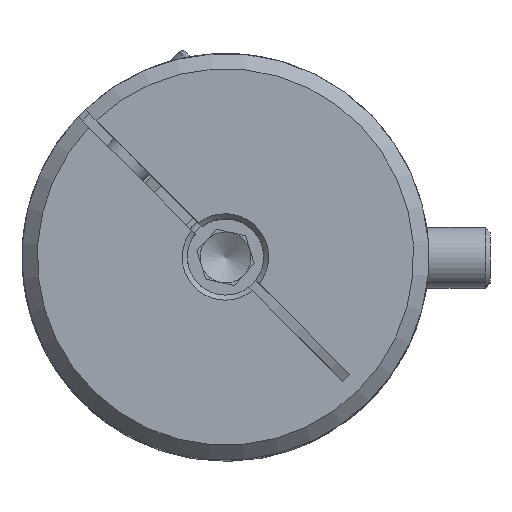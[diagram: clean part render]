
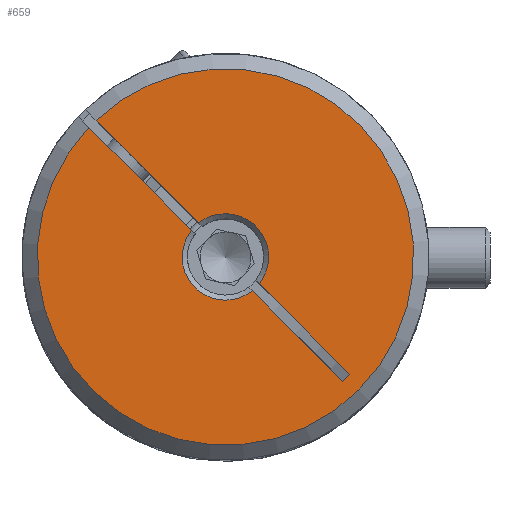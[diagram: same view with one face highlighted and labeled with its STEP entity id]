
A CAD part, top view. The second image highlights one B-rep face of the part: STEP entity #659.
In plain terms, the highlighted planar face has unit normal (0, 0, 1) as drawn and (0, 0, -1) by its records, which use the part's own axes.
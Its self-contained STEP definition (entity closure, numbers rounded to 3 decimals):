
#659 = ADVANCED_FACE( '', ( #1342 ), #1343, .T. );
#1342 = FACE_OUTER_BOUND( '', #1992, .T. );
#1343 = PLANE( '', #1993 );
#1992 = EDGE_LOOP( '', ( #2762, #2763, #2764, #2765, #2766, #2767, #2768, #2769 ) );
#1993 = AXIS2_PLACEMENT_3D( '', #2770, #2771, #2772 );
#2762 = ORIENTED_EDGE( '', *, *, #4786, .F. );
#2763 = ORIENTED_EDGE( '', *, *, #4787, .T. );
#2764 = ORIENTED_EDGE( '', *, *, #4788, .T. );
#2765 = ORIENTED_EDGE( '', *, *, #4789, .T. );
#2766 = ORIENTED_EDGE( '', *, *, #4790, .T. );
#2767 = ORIENTED_EDGE( '', *, *, #4783, .T. );
#2768 = ORIENTED_EDGE( '', *, *, #4780, .F. );
#2769 = ORIENTED_EDGE( '', *, *, #4791, .T. );
#2770 = CARTESIAN_POINT( '', ( 0., 0., 0. ) );
#2771 = DIRECTION( '', ( 0., 0., -1. ) );
#2772 = DIRECTION( '', ( -1., 0., 0. ) );
#4780 = EDGE_CURVE( '', #5495, #5498, #5499, .T. );
#4783 = EDGE_CURVE( '', #5503, #5498, #5504, .T. );
#4786 = EDGE_CURVE( '', #5508, #5509, #5510, .T. );
#4787 = EDGE_CURVE( '', #5508, #5511, #5512, .T. );
#4788 = EDGE_CURVE( '', #5511, #5513, #5514, .T. );
#4789 = EDGE_CURVE( '', #5513, #5515, #5516, .F. );
#4790 = EDGE_CURVE( '', #5515, #5503, #5517, .T. );
#4791 = EDGE_CURVE( '', #5495, #5509, #5518, .F. );
#5495 = VERTEX_POINT( '', #6502 );
#5498 = VERTEX_POINT( '', #6508 );
#5499 = LINE( '', #6509, #6510 );
#5503 = VERTEX_POINT( '', #6515 );
#5504 = LINE( '', #6516, #6517 );
#5508 = VERTEX_POINT( '', #6524 );
#5509 = VERTEX_POINT( '', #6525 );
#5510 = LINE( '', #6526, #6527 );
#5511 = VERTEX_POINT( '', #6528 );
#5512 = CIRCLE( '', #6529, 37. );
#5513 = VERTEX_POINT( '', #6530 );
#5514 = LINE( '', #6531, #6532 );
#5515 = VERTEX_POINT( '', #6533 );
#5516 = CIRCLE( '', #6534, 8.5 );
#5517 = LINE( '', #6535, #6536 );
#5518 = CIRCLE( '', #6537, 8.5 );
#6502 = CARTESIAN_POINT( '', ( 8.441, 1., 0. ) );
#6508 = CARTESIAN_POINT( '', ( 33.604, 1., 0. ) );
#6509 = CARTESIAN_POINT( '', ( -40., 1., 0. ) );
#6510 = VECTOR( '', #7753, 1000. );
#6515 = CARTESIAN_POINT( '', ( 33.604, -1., 0. ) );
#6516 = CARTESIAN_POINT( '', ( 33.604, -1., 0. ) );
#6517 = VECTOR( '', #7758, 1000. );
#6524 = CARTESIAN_POINT( '', ( -36.986, 1., 0. ) );
#6525 = CARTESIAN_POINT( '', ( -8.441, 1., 0. ) );
#6526 = CARTESIAN_POINT( '', ( -40., 1., 0. ) );
#6527 = VECTOR( '', #7762, 1000. );
#6528 = CARTESIAN_POINT( '', ( -36.986, -1., 0. ) );
#6529 = AXIS2_PLACEMENT_3D( '', #7763, #7764, #7765 );
#6530 = CARTESIAN_POINT( '', ( -8.441, -1., 0. ) );
#6531 = CARTESIAN_POINT( '', ( -40., -1., 0. ) );
#6532 = VECTOR( '', #7766, 1000. );
#6533 = CARTESIAN_POINT( '', ( 8.441, -1., 0. ) );
#6534 = AXIS2_PLACEMENT_3D( '', #7767, #7768, #7769 );
#6535 = CARTESIAN_POINT( '', ( -40., -1., 0. ) );
#6536 = VECTOR( '', #7770, 1000. );
#6537 = AXIS2_PLACEMENT_3D( '', #7771, #7772, #7773 );
#7753 = DIRECTION( '', ( 1., 0., 0. ) );
#7758 = DIRECTION( '', ( 0., 1., 0. ) );
#7762 = DIRECTION( '', ( 1., 0., 0. ) );
#7763 = CARTESIAN_POINT( '', ( 0., 0., 0. ) );
#7764 = DIRECTION( '', ( 0., 0., -1. ) );
#7765 = DIRECTION( '', ( -1., 0., 0. ) );
#7766 = DIRECTION( '', ( 1., 0., 0. ) );
#7767 = CARTESIAN_POINT( '', ( 0., 0., 0. ) );
#7768 = DIRECTION( '', ( 0., 0., -1. ) );
#7769 = DIRECTION( '', ( -1., 0., 0. ) );
#7770 = DIRECTION( '', ( 1., 0., 0. ) );
#7771 = CARTESIAN_POINT( '', ( 0., 0., 0. ) );
#7772 = DIRECTION( '', ( 0., 0., -1. ) );
#7773 = DIRECTION( '', ( -1., 0., 0. ) );
